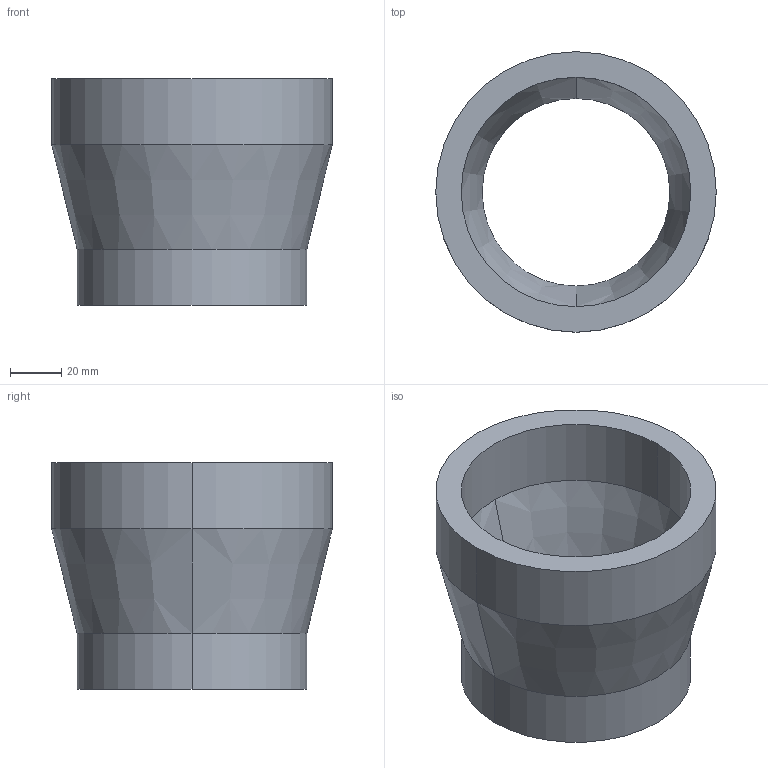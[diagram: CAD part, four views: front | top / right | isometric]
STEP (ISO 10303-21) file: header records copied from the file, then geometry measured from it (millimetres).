
FILE_DESCRIPTION (( 'STEP AP203' ), '1' );
FILE_NAME ('KP_9-110-90.step', '2011-08-08T11:41:07', ( '' ), ( '' ), 'SwSTEP 2.0', 'SolidWorks 2011', '' );
FILE_SCHEMA (( 'CONFIG_CONTROL_DESIGN' ));
Length unit declared in the file: millimetre
Products named in the file (1): KP_9-110-90
Bounding box: 110 x 110 x 89 mm (x, y, z)
Volume: 242928.3 mm3; surface area: 56753 mm2
Topology: 1 solids, 1 shells, 14 faces, 32 edges, 20 vertices
Faces by surface type: cylinder 8, cone 4, plane 2
Entity records: 485 total; most frequent: DIRECTION 82, CARTESIAN_POINT 67, ORIENTED_EDGE 64, AXIS2_PLACEMENT_3D 35, EDGE_CURVE 32, CIRCLE 20, VERTEX_POINT 20, EDGE_LOOP 16
